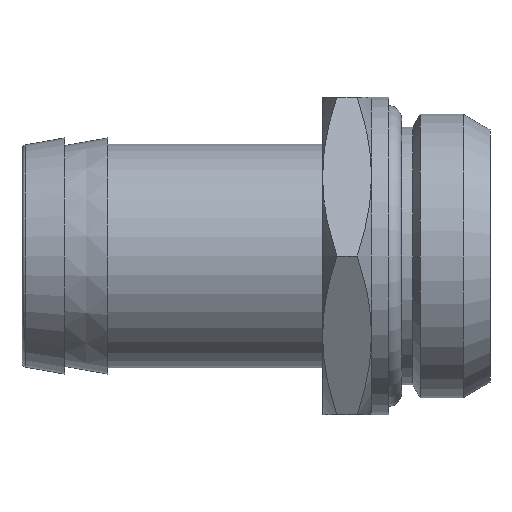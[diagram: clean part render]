
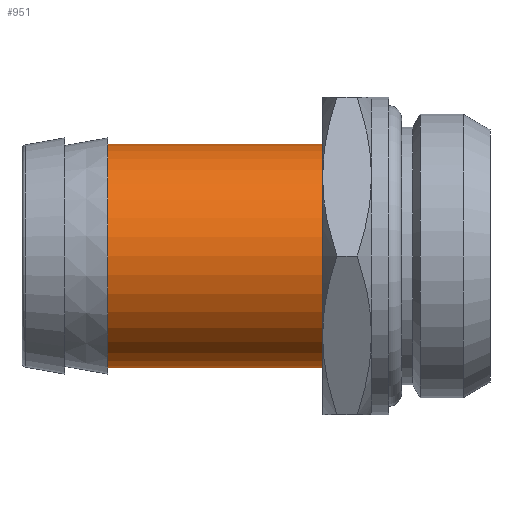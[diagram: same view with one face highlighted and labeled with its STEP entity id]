
A CAD part, left-side view. The second image highlights one B-rep face of the part: STEP entity #951.
In plain terms, the highlighted cylindrical face has radius 13 mm (diameter 26 mm), a partial arc.
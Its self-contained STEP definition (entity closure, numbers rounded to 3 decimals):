
#101 = DIRECTION ( 'NONE',  ( 0., 0., -1. ) ) ;
#231 = EDGE_CURVE ( 'NONE', #2396, #1023, #2460, .T. ) ;
#304 = VERTEX_POINT ( 'NONE', #1282 ) ;
#316 = CARTESIAN_POINT ( 'NONE',  ( 0., 0., 0. ) ) ;
#340 = EDGE_CURVE ( 'NONE', #2396, #1010, #1972, .T. ) ;
#370 = ORIENTED_EDGE ( 'NONE', *, *, #231, .F. ) ;
#434 = VECTOR ( 'NONE', #1084, 1000. ) ;
#501 = CARTESIAN_POINT ( 'NONE',  ( 0., 44.5, -13. ) ) ;
#574 = DIRECTION ( 'NONE',  ( 0., -1., 0. ) ) ;
#622 = DIRECTION ( 'NONE',  ( 0., -1., 0. ) ) ;
#698 = DIRECTION ( 'NONE',  ( 0., 0., -1. ) ) ;
#745 = CARTESIAN_POINT ( 'NONE',  ( 0., 44.5, 13. ) ) ;
#772 = CARTESIAN_POINT ( 'NONE',  ( 0., 19.5, 0. ) ) ;
#802 = EDGE_CURVE ( 'NONE', #1023, #304, #2291, .T. ) ;
#827 = AXIS2_PLACEMENT_3D ( 'NONE', #2087, #2298, #2305 ) ;
#868 = CARTESIAN_POINT ( 'NONE',  ( 0., 19.5, 13. ) ) ;
#951 = ADVANCED_FACE ( 'NONE', ( #1684 ), #1505, .T. ) ;
#1010 = VERTEX_POINT ( 'NONE', #501 ) ;
#1023 = VERTEX_POINT ( 'NONE', #868 ) ;
#1078 = CARTESIAN_POINT ( 'NONE',  ( 0., 0., 13. ) ) ;
#1084 = DIRECTION ( 'NONE',  ( 0., -1., 0. ) ) ;
#1146 = ORIENTED_EDGE ( 'NONE', *, *, #802, .F. ) ;
#1171 = CARTESIAN_POINT ( 'NONE',  ( 0., 0., -13. ) ) ;
#1282 = CARTESIAN_POINT ( 'NONE',  ( 0., 19.5, -13. ) ) ;
#1505 = CYLINDRICAL_SURFACE ( 'NONE', #2364, 13. ) ;
#1684 = FACE_OUTER_BOUND ( 'NONE', #2178, .T. ) ;
#1751 = ORIENTED_EDGE ( 'NONE', *, *, #2470, .T. ) ;
#1754 = LINE ( 'NONE', #1171, #2260 ) ;
#1904 = ORIENTED_EDGE ( 'NONE', *, *, #340, .T. ) ;
#1972 = CIRCLE ( 'NONE', #827, 13. ) ;
#2087 = CARTESIAN_POINT ( 'NONE',  ( 0., 44.5, 0. ) ) ;
#2178 = EDGE_LOOP ( 'NONE', ( #370, #1904, #1751, #1146 ) ) ;
#2260 = VECTOR ( 'NONE', #2296, 1000. ) ;
#2283 = AXIS2_PLACEMENT_3D ( 'NONE', #772, #622, #698 ) ;
#2291 = CIRCLE ( 'NONE', #2283, 13. ) ;
#2296 = DIRECTION ( 'NONE',  ( 0., -1., 0. ) ) ;
#2298 = DIRECTION ( 'NONE',  ( 0., -1., 0. ) ) ;
#2305 = DIRECTION ( 'NONE',  ( 0., 0., -1. ) ) ;
#2364 = AXIS2_PLACEMENT_3D ( 'NONE', #316, #574, #101 ) ;
#2396 = VERTEX_POINT ( 'NONE', #745 ) ;
#2460 = LINE ( 'NONE', #1078, #434 ) ;
#2470 = EDGE_CURVE ( 'NONE', #1010, #304, #1754, .T. ) ;
